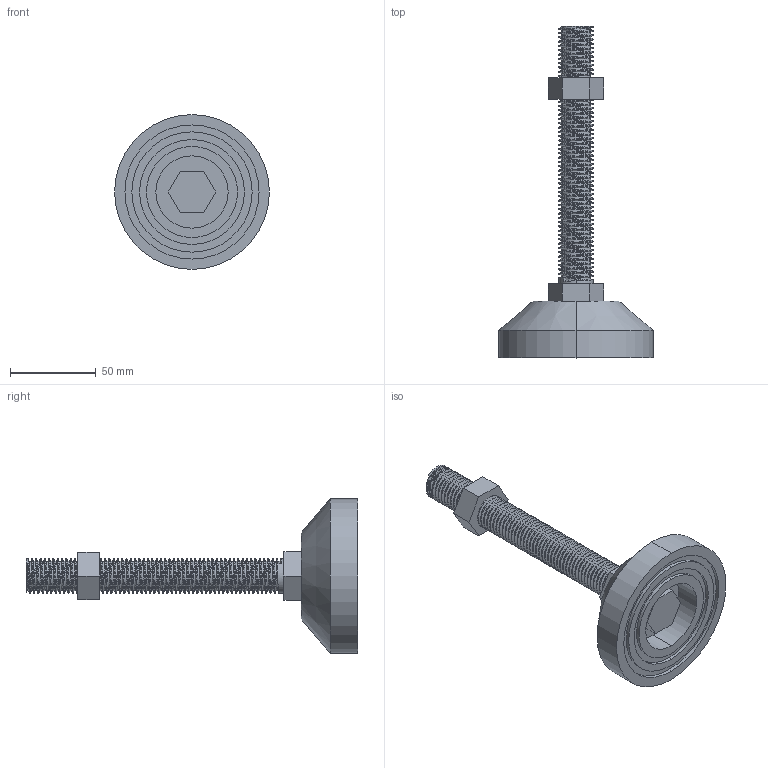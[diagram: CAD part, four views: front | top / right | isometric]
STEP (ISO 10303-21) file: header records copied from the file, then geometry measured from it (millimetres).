
FILE_DESCRIPTION (( 'STEP AP203' ), '1' );
FILE_NAME ('F-107-20-L2.STEP', '2015-11-23T08:51:18', ( '' ), ( '' ), 'SwSTEP 2.0', 'SolidWorks 2014', '' );
FILE_SCHEMA (( 'CONFIG_CONTROL_DESIGN' ));
Length unit declared in the file: millimetre
Products named in the file (1): F-107-20-L2
Bounding box: 90 x 193 x 90 mm (x, y, z)
Volume: 203678.6 mm3; surface area: 42458 mm2
Topology: 2 solids, 2 shells, 168 faces, 466 edges, 310 vertices
Faces by surface type: cylinder 131, plane 32, bspline 3, cone 2
Entity records: 12211 total; most frequent: CARTESIAN_POINT 8530, ORIENTED_EDGE 932, DIRECTION 587, EDGE_CURVE 466, VERTEX_POINT 310, AXIS2_PLACEMENT_3D 196, LINE 195, VECTOR 195
